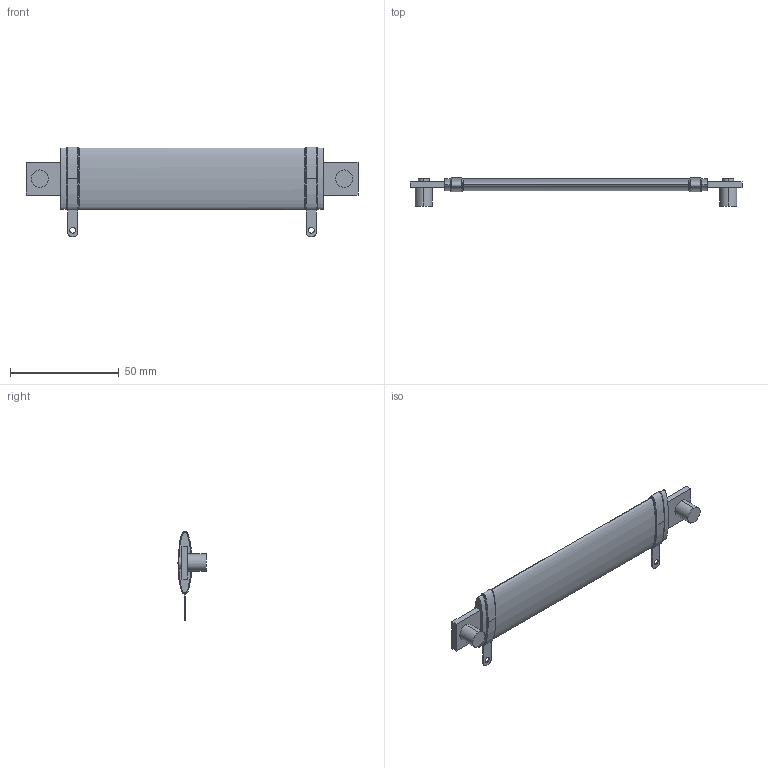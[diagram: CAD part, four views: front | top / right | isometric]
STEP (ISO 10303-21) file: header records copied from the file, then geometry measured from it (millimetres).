
FILE_DESCRIPTION (( 'STEP AP203' ), '1' );
FILE_NAME ('FSOT70-09E.STEP', '2019-11-04T15:54:44', ( '' ), ( '' ), 'SwSTEP 2.0', 'SolidWorks 2019', '' );
FILE_SCHEMA (( 'CONFIG_CONTROL_DESIGN' ));
Length unit declared in the file: millimetre
Products named in the file (1): FSOT70-09E
Bounding box: 152.41 x 12.91 x 41.12 mm (x, y, z)
Volume: 17114 mm3; surface area: 9227.8 mm2
Topology: 1 solids, 1 shells, 122 faces, 322 edges, 208 vertices
Faces by surface type: bspline 80, plane 26, cylinder 16
Entity records: 6447 total; most frequent: CARTESIAN_POINT 3891, ORIENTED_EDGE 644, DIRECTION 338, EDGE_CURVE 322, VERTEX_POINT 208, B_SPLINE_CURVE_WITH_KNOTS 158, AXIS2_PLACEMENT_3D 135, EDGE_LOOP 132
